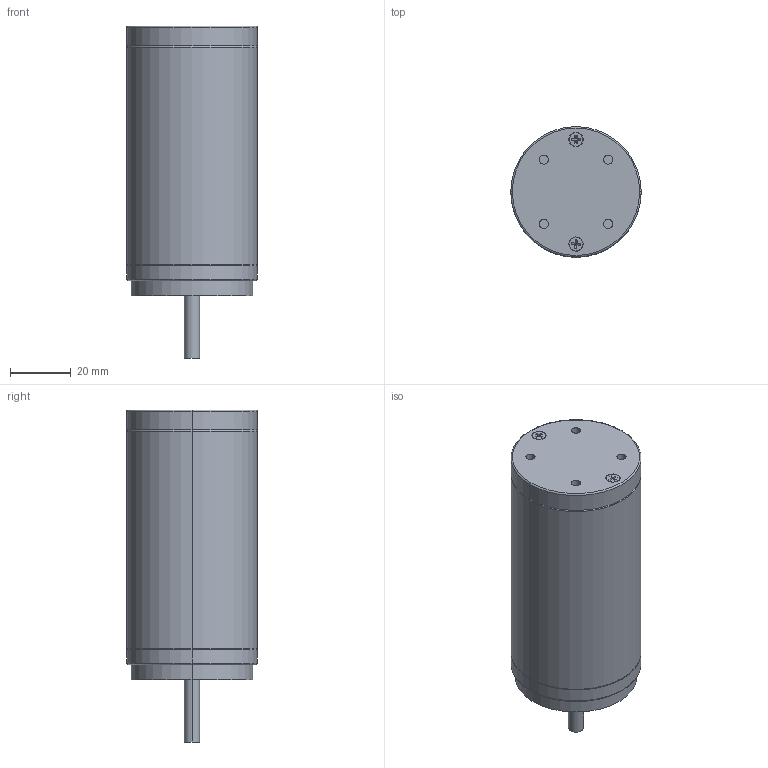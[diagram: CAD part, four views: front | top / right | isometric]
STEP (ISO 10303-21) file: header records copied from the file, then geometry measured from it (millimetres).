
FILE_DESCRIPTION (( 'STEP AP214' ), '1' );
FILE_NAME ('01.M3929-CIRCLE MODEL.STEP', '2017-06-11T11:59:16', ( 'Sky123.Org' ), ( 'Sky123.Org' ), 'SwSTEP 2.0', 'SolidWorks 2015', '' );
FILE_SCHEMA (( 'AUTOMOTIVE_DESIGN' ));
Length unit declared in the file: millimetre
Products named in the file (3): flat head screw_am_B18.6.7M - M2.5 x 0.45 x 4 Type I Cross Recessed FHMS --4N; M3929SLDPRT; 01.M3929-CIRCLE MODEL
Assembly tree (3 placements, depth 2):
  01.M3929-CIRCLE MODEL
    M3929SLDPRT
    flat head screw_am_B18.6.7M - M2.5 x 0.45 x 4 Type I Cross Recessed FHMS --4N  x2
Bounding box: 43 x 43 x 109.5 mm (x, y, z)
Volume: 35120.8 mm3; surface area: 29132 mm2
Topology: 4 solids, 4 shells, 255 faces, 580 edges, 339 vertices
Faces by surface type: cylinder 102, torus 83, plane 58, bspline 8, cone 4
Entity records: 7218 total; most frequent: CARTESIAN_POINT 1459, DIRECTION 1332, ORIENTED_EDGE 1060, AXIS2_PLACEMENT_3D 588, EDGE_CURVE 530, CIRCLE 356, VERTEX_POINT 315, EDGE_LOOP 263
